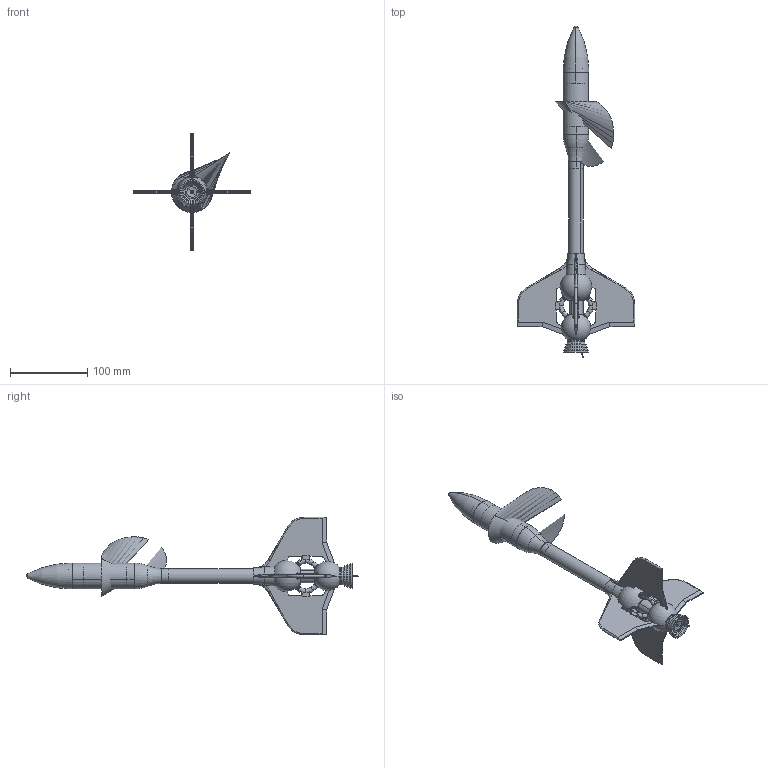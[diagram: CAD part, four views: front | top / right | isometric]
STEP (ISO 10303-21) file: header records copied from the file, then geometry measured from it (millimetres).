
FILE_DESCRIPTION (( 'STEP AP214' ), '1' );
FILE_NAME ('Rocket 4.STEP', '2013-03-14T04:45:55', ( '' ), ( '' ), 'SwSTEP 2.0', 'SolidWorks 2013', '' );
FILE_SCHEMA (( 'AUTOMOTIVE_DESIGN' ));
Length unit declared in the file: millimetre
Products named in the file (17): Rock 4 - BT-55 Upper Section; Rocket 4 Nose Cone; Roket 4 BT-55 Nose Cone Plug; Roket 4 BT-55 Nose Cone Ogive; Rock 4 Upper Transition; Roket 4 Upper Trans Shock Cord; Roket 4 Upper Trans; Rock 4 - Semroc Seris7 Main Tube; Rocket 4 Fin Core A; Rocket 4 Fin Core B; Rocket 4; Paper Clip Retainer; Engine A-B-C; Printed Fuel Tube; Fuel Tube B; Fuel Tube A; Rocket 4 Fin
Assembly tree (22 placements, depth 3):
  Rocket 4
    Rocket 4 Fin Core B
    Rocket 4 Fin Core A
    Rock 4 - Semroc Seris7 Main Tube
    Rock 4 Upper Transition
      Roket 4 Upper Trans
      Roket 4 Upper Trans Shock Cord
    Rocket 4 Nose Cone
      Roket 4 BT-55 Nose Cone Ogive
      Roket 4 BT-55 Nose Cone Plug
    Rock 4 - BT-55 Upper Section
    Rocket 4 Fin  x4
    Printed Fuel Tube  x4
      Fuel Tube A
      Fuel Tube B
    Engine A-B-C
    Paper Clip Retainer
Bounding box: 152 x 430.11 x 152 mm (x, y, z)
Volume: 1099022.2 mm3; surface area: 189370.7 mm2
Topology: 27 solids, 43 shells, 798 faces, 2039 edges, 1303 vertices
Faces by surface type: plane 332, cylinder 172, torus 154, bspline 82, sphere 30, cone 28
Entity records: 17982 total; most frequent: CARTESIAN_POINT 5404, DIRECTION 2500, ORIENTED_EDGE 2388, EDGE_CURVE 1194, AXIS2_PLACEMENT_3D 1059, VERTEX_POINT 752, CIRCLE 600, EDGE_LOOP 508
